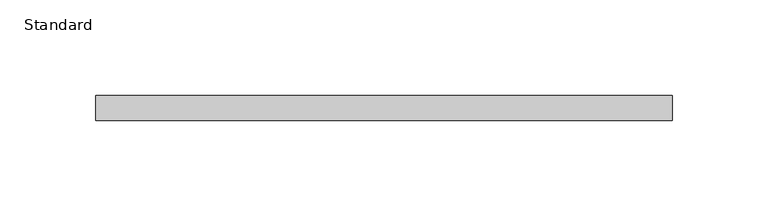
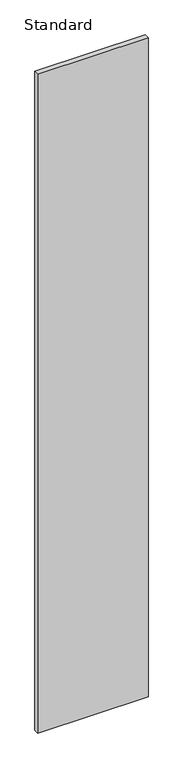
"""IFC4 building model written with IfcOpenShell, lengths in millimetres: furniture geometry, X_Partition-Compact Laminate-Duracube-Rectangular : Standard."""

from ifc_helpers import new_model, si_unit, origin, origin_with_axes, place, context, project, spatial, polyline, outline, extrude, source, transform, mapped, element, save


def standard_f6b4b1de(model_context):
    return source(origin(), model_context, "Body", "SweptSolid", [
        extrude(outline(polyline([(195.2003264, 0.0), (195.2003264, -13.0), (-105.7996736, -13.0), (-105.7996736, 0.0), (195.2003264, 0.0)])), origin_with_axes(), (0.0, 0.0, 1.0), 1900.0),
    ])


if __name__ == "__main__":
    model = new_model("IFC4")
    model_context = context("Model", 3, world=origin())
    ifc_project = project(units=[si_unit("LENGTHUNIT", "METRE", prefix="MILLI")], contexts=[model_context])
    site = spatial("IfcSite", under=ifc_project)
    building = spatial("IfcBuilding", under=site)
    placement = place(None, origin())
    standard_shape = standard_f6b4b1de(model_context)
    element("IfcFurniture", 1, ObjectType="X_Partition-Compact Laminate-Duracube-Rectangular : Standard", at=placement, inside=building, context=model_context, shape_type="MappedRepresentation", body=[
        mapped(standard_shape, transform((0.0, 0.0, 0.0), x_axis=(1.0, 0.0, 0.0), y_axis=(0.0, 1.0, 0.0), z_axis=(0.0, 0.0, 1.0))),
    ])
    save(model, "model.ifc")
